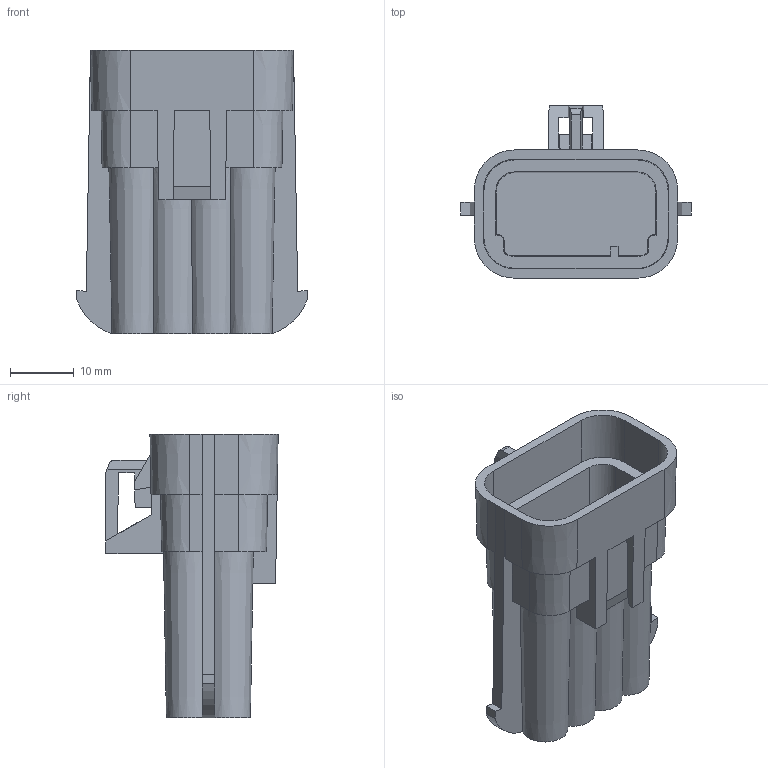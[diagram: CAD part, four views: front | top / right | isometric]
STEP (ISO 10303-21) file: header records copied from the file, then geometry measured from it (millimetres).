
FILE_DESCRIPTION(/* description */ (''),/* implementation_level */ '2;1');
FILE_NAME(/* name */ '12047931-ENV11_04-CONN.stp',/* time_stamp */ '2021-09-06T15:51:51+05:00',/* author */ (''),/* organization */ (''),/* preprocessor_version */ 'ST-DEVELOPER v16',/* originating_system */ 'SIEMENS PLM Software NX 11.0',/* authorisation */ '');
FILE_SCHEMA (('AP203_CONFIGURATION_CONTROLLED_3D_DESIGN_OF_MECHANICAL_PARTS_AND_ASSEMBLIES_MIM_LF { 1 0 10303 403 2 1 2}'));
Length unit declared in the file: millimetre
Products named in the file (1): hjcv4A68214C0b9v
Bounding box: 36.2 x 27.07 x 44.6 mm (x, y, z)
Volume: 12427.4 mm3; surface area: 7281.8 mm2
Topology: 1 solids, 1 shells, 132 faces, 386 edges, 254 vertices
Faces by surface type: plane 101, cone 18, cylinder 11, bspline 2
Entity records: 4536 total; most frequent: CARTESIAN_POINT 915, ORIENTED_EDGE 772, DIRECTION 692, EDGE_CURVE 386, LINE 298, VECTOR 298, VERTEX_POINT 254, AXIS2_PLACEMENT_3D 197
